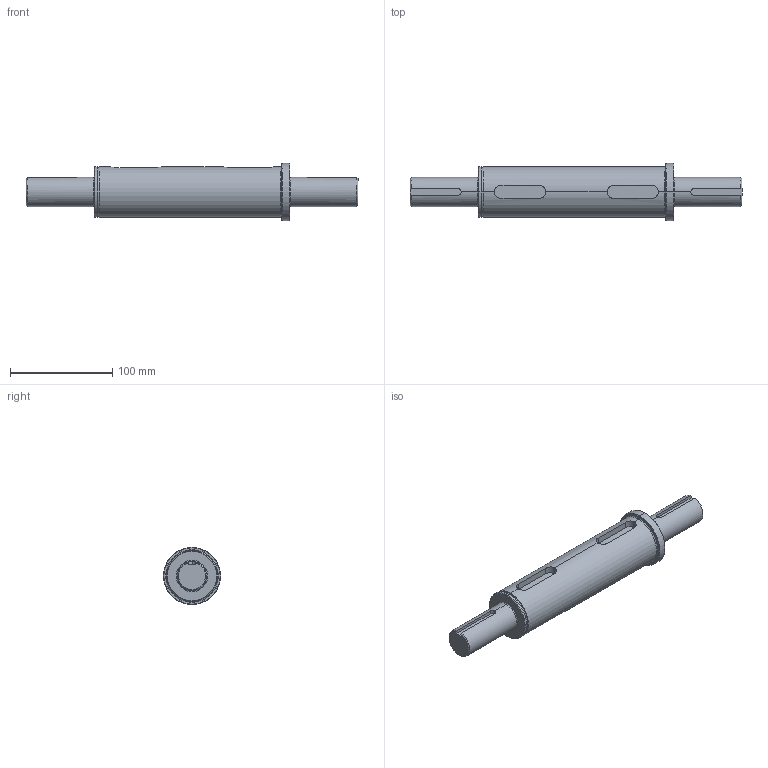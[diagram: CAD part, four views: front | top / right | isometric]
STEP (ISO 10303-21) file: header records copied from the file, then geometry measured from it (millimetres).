
FILE_DESCRIPTION (( 'STEP AP203' ), '1' );
FILE_NAME ('SSHdR262-OPS-DS-1.125.STEP', '2023-01-07T03:20:41', ( '' ), ( '' ), 'SwSTEP 2.0', 'SolidWorks 2012', '' );
FILE_SCHEMA (( 'CONFIG_CONTROL_DESIGN' ));
Length unit declared in the file: millimetre
Products named in the file (1): SSHdR262-OPS-DS-1.125
Bounding box: 324.2 x 56 x 56 mm (x, y, z)
Volume: 442079.4 mm3; surface area: 48582.4 mm2
Topology: 1 solids, 1 shells, 55 faces, 128 edges, 80 vertices
Faces by surface type: cylinder 21, plane 19, cone 9, torus 6
Entity records: 1869 total; most frequent: CARTESIAN_POINT 520, DIRECTION 278, ORIENTED_EDGE 256, EDGE_CURVE 128, AXIS2_PLACEMENT_3D 110, VERTEX_POINT 80, EDGE_LOOP 60, LINE 58
